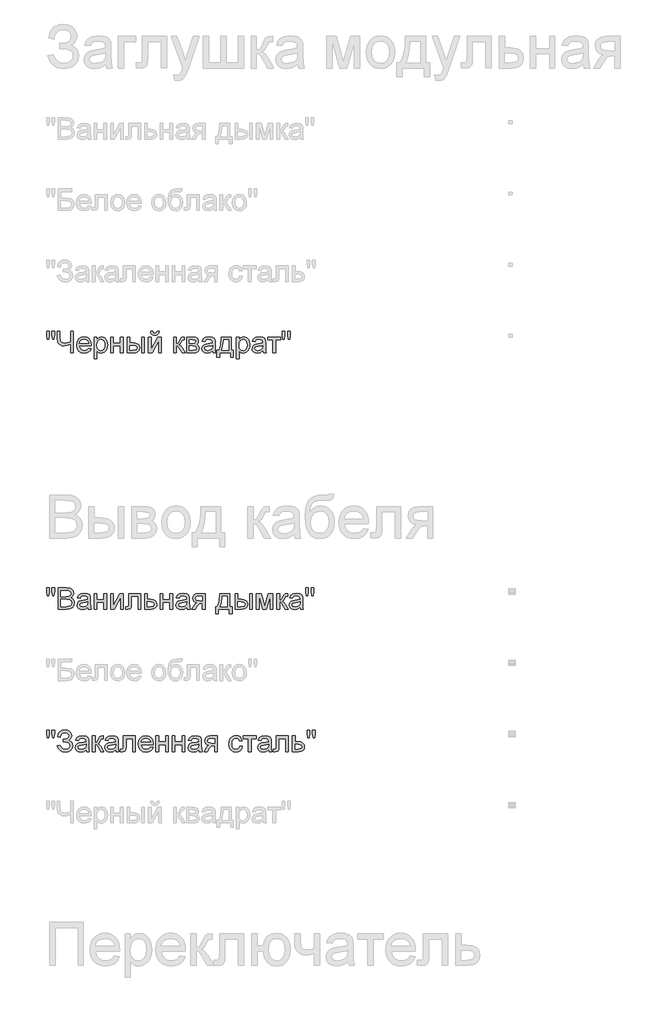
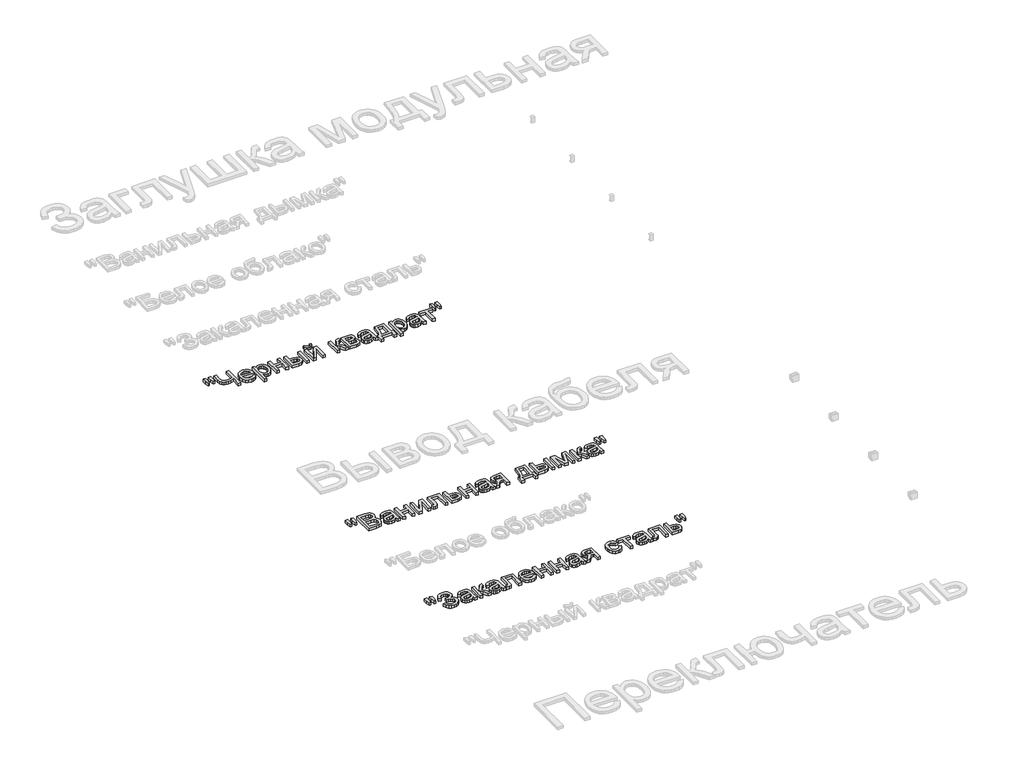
# One storey, part 64 of 168: 3 proxies.
"""IFC4 building model written with IfcOpenShell, lengths in millimetres."""

from ifc_helpers import new_model, si_unit, origin, origin_with_axes, place, context, project, spatial, polyline, outline, extrude, element, save

model = new_model("IFC4")

# Units and contexts
model_context = context("Model", 3, world=origin())
ifc_project = project(units=[si_unit("LENGTHUNIT", "METRE", prefix="MILLI")], contexts=[model_context])

# Site, building, storey
site = spatial("IfcSite", under=ifc_project)
building = spatial("IfcBuilding", under=site)
storey = spatial("IfcBuildingStorey", under=building, Name="Этаж 01", Elevation=0.0)

# Proxies
placement = place(None, origin())
element("IfcBuildingElementProxy", 1, Name="150", ObjectType="150", at=placement, inside=storey, context=model_context, shape_type="SweptSolid", body=[
    extrude(outline(polyline([(49080.1485789, -36170.3300622), (49075.550054, -36141.2305964), (49075.550054, -36116.1778325), (49094.3856121, -36116.1778325), (49094.3856121, -36141.2305964), (49090.2653338, -36170.3300622), (49080.1485789, -36170.3300622)])), origin_with_axes(), (0.0, 0.0, 1.0), 20.0),
    extrude(outline(polyline([(49117.7093306, -36170.3300622), (49113.2211703, -36141.2305964), (49113.2211703, -36116.1778325), (49132.0567284, -36116.1778325), (49132.0567284, -36141.2305964), (49127.6421445, -36170.3300622), (49117.7093306, -36170.3300622)])), origin_with_axes(), (0.0, 0.0, 1.0), 20.0),
    extrude(outline(polyline([(49263.9056355, -36266.8622977), (49245.0700773, -36266.8622977), (49245.0700773, -36206.5296505), (49220.0908899, -36214.6966308), (49198.4226404, -36217.4189576), (49183.7395502, -36215.556555), (49170.886673, -36209.9693472), (49160.926268, -36201.5172583), (49154.9205944, -36191.0602126), (49150.8922866, -36161.0594359), (49150.8922866, -36116.1778325), (49169.7278447, -36116.1778325), (49169.7278447, -36158.5210502), (49171.990319, -36178.8879171), (49178.7777418, -36190.8394834), (49188.7381468, -36196.6474204), (49200.5195677, -36198.5833994), (49222.2521966, -36196.2473488), (49245.0700773, -36189.2391968), (49245.0700773, -36116.1778325), (49263.9056355, -36116.1778325), (49263.9056355, -36266.8622977)])), origin_with_axes(), (0.0, 0.0, 1.0), 20.0),
    extrude(outline(polyline([(49371.9893657, -36233.900071), (49390.4570418, -36236.2545157), (49383.8029763, -36250.1696522), (49373.1849822, -36260.5715156), (49358.8421829, -36267.0554358), (49341.0137017, -36269.2167425), (49318.9131908, -36265.4873388), (49301.9078456, -36254.2991276), (49291.0645238, -36236.3786759), (49287.4500832, -36212.4525506), (49291.101312, -36187.7216835), (49302.0549984, -36169.2264162), (49318.8304174, -36157.6933157), (49339.9468439, -36153.8489488), (49360.4056814, -36157.6841186), (49376.7534375, -36169.189628), (49387.4725992, -36187.6481071), (49391.045653, -36212.342186), (49390.9352884, -36217.4189576), (49306.2856413, -36217.4189576), (49309.5459955, -36231.518035), (49317.1197661, -36241.8831103), (49328.0504599, -36248.2566658), (49341.3815837, -36250.3811843), (49359.8492598, -36246.444847), (49371.9893657, -36233.900071)]), holes=[polyline([(49306.2856413, -36198.5833994), (49372.2100949, -36198.5833994), (49369.6625121, -36188.6321915), (49364.668514, -36181.5136749), (49353.6872364, -36174.8917989), (49339.8732675, -36172.684507), (49327.1767401, -36174.445742), (49316.6783077, -36179.7294472), (49309.3804486, -36187.9654053), (49306.2856413, -36198.5833994)])]), origin_with_axes(), (0.0, 0.0, 1.0), 20.0),
    extrude(outline(polyline([(49409.8812112, -36309.2423036), (49409.8812112, -36156.2033936), (49428.7167693, -36156.2033936), (49428.7167693, -36174.6710697), (49441.739792, -36159.054479), (49459.3245513, -36153.8489488), (49472.0624654, -36155.6699647), (49483.2000928, -36161.1330123), (49492.268384, -36169.9069979), (49498.7982894, -36181.6608277), (49504.0590019, -36210.6867171), (49502.5736784, -36226.7953499), (49498.1177077, -36241.2025286), (49490.8336442, -36253.1770875), (49480.8640422, -36261.9878613), (49469.2527667, -36267.4095222), (49457.043683, -36269.2167425), (49440.6545401, -36264.3790943), (49428.7167693, -36252.1470179), (49428.7167693, -36309.2423036), (49409.8812112, -36309.2423036)]), holes=[polyline([(49428.7167693, -36212.4157624), (49430.7539159, -36229.301546), (49436.8653555, -36241.1105581), (49445.8830629, -36248.0635278), (49456.6390128, -36250.3811843), (49467.5697066, -36247.9807543), (49476.8173402, -36240.7794643), (49483.1219179, -36228.5381909), (49485.2234438, -36211.0178109), (49483.1725017, -36194.2239978), (49477.0196753, -36182.2494388), (49468.0157635, -36175.0757399), (49457.411565, -36172.684507), (49446.7659797, -36175.2274913), (49437.4171785, -36182.8564441), (49430.8918716, -36195.3322423), (49428.7167693, -36212.4157624)])]), origin_with_axes(), (0.0, 0.0, 1.0), 20.0),
    extrude(outline(polyline([(49525.2490049, -36156.2033936), (49544.084563, -36156.2033936), (49544.084563, -36198.5833994), (49593.5279032, -36198.5833994), (49593.5279032, -36156.2033936), (49612.3634613, -36156.2033936), (49612.3634613, -36266.8622977), (49593.5279032, -36266.8622977), (49593.5279032, -36217.4189576), (49544.084563, -36217.4189576), (49544.084563, -36266.8622977), (49525.2490049, -36266.8622977), (49525.2490049, -36156.2033936)])), origin_with_axes(), (0.0, 0.0, 1.0), 20.0),
    extrude(outline(polyline([(49744.2123684, -36156.2033936), (49763.0479266, -36156.2033936), (49763.0479266, -36266.8622977), (49744.2123684, -36266.8622977), (49744.2123684, -36156.2033936)])), origin_with_axes(), (0.0, 0.0, 1.0), 20.0),
    extrude(outline(polyline([(49640.6167986, -36156.2033936), (49659.4523567, -36156.2033936), (49659.4523567, -36196.2289547), (49682.739287, -36196.2289547), (49702.8670307, -36198.587998), (49717.780047, -36205.6651278), (49727.0092866, -36216.8901272), (49730.0856998, -36231.692779), (49727.5059273, -36245.1710556), (49719.7666098, -36256.5432078), (49706.3619096, -36264.2825252), (49686.785989, -36266.8622977), (49640.6167986, -36266.8622977), (49640.6167986, -36156.2033936)]), holes=[polyline([(49659.4523567, -36248.0267396), (49678.8029497, -36248.0267396), (49703.7821371, -36244.0720081), (49709.3831405, -36239.0090322), (49711.2501416, -36231.7295672), (49705.7135176, -36220.1412843), (49696.8337659, -36216.3337057), (49681.267759, -36215.0645128), (49659.4523567, -36215.0645128), (49659.4523567, -36248.0267396)])]), origin_with_axes(), (0.0, 0.0, 1.0), 20.0),
    extrude(outline(polyline([(49791.3012638, -36156.2033936), (49810.1368219, -36156.2033936), (49810.1368219, -36240.5955233), (49856.4163769, -36156.2033936), (49880.770165, -36156.2033936), (49880.770165, -36266.8622977), (49861.9346069, -36266.8622977), (49861.9346069, -36182.9852028), (49815.9493575, -36266.8622977), (49791.3012638, -36266.8622977), (49791.3012638, -36156.2033936)])), origin_with_axes(), (0.0, 0.0, 1.0), 20.0),
    extrude(outline(polyline([(49852.5168278, -36116.1778325), (49866.6434964, -36116.1778325), (49863.6038714, -36128.2397634), (49857.5016288, -36137.1287121), (49848.6126801, -36142.6055553), (49837.2129368, -36144.4311697), (49824.8429047, -36142.6193509), (49815.2503817, -36137.1838944), (49808.6928851, -36128.3087413), (49805.4279324, -36116.1778325), (49819.554601, -36116.1778325), (49824.8521017, -36126.7912281), (49835.5206796, -36130.3045011), (49847.219327, -36126.9015927), (49852.5168278, -36116.1778325)])), origin_with_axes(), (0.0, 0.0, 1.0), 20.0),
    extrude(outline(polyline([(49967.8846215, -36156.2033936), (49986.7201796, -36156.2033936), (49986.7201796, -36203.292289), (49999.3385321, -36199.9077746), (50009.6760161, -36180.1892997), (50018.2660607, -36163.1747574), (50025.8444298, -36157.6381334), (50039.6216105, -36156.2033936), (50043.2268541, -36156.2033936), (50043.2268541, -36175.1493163), (50038.1500825, -36175.0389517), (50028.9530327, -36177.0255145), (50022.4783096, -36189.4231377), (50014.8815464, -36202.8324365), (50004.2313626, -36209.3991301), (50016.113951, -36216.7291788), (50027.7758103, -36232.1710256), (50047.9357436, -36266.8622977), (50026.5250115, -36266.8622977), (50006.7697484, -36232.9067896), (49996.8369345, -36218.5409977), (49986.7201796, -36215.0645128), (49986.7201796, -36266.8622977), (49967.8846215, -36266.8622977), (49967.8846215, -36156.2033936)])), origin_with_axes(), (0.0, 0.0, 1.0), 20.0),
    extrude(outline(polyline([(50059.7079675, -36156.2033936), (50101.2050565, -36156.2033936), (50123.9585579, -36158.7233853), (50136.7608514, -36167.9572233), (50142.1135344, -36184.0520606), (50138.8761728, -36197.1302655), (50129.1273, -36206.4560741), (50141.7824406, -36216.6647995), (50146.8224239, -36234.4151058), (50143.6310476, -36248.7717006), (50136.0434815, -36258.8792584), (50124.0321343, -36264.8665379), (50107.569415, -36266.8622977), (50059.7079675, -36266.8622977), (50059.7079675, -36156.2033936)]), holes=[polyline([(50078.5435256, -36198.5833994), (50097.1583546, -36198.5833994), (50112.5174279, -36197.6269062), (50119.9854324, -36193.8009335), (50123.2779762, -36186.884752), (50121.8340394, -36181.2653545), (50117.5022289, -36177.6509139), (50097.7469658, -36175.0389517), (50078.5435256, -36175.0389517), (50078.5435256, -36198.5833994)]), polyline([(50078.5435256, -36248.0267396), (50101.6465149, -36248.0267396), (50122.137542, -36244.6238311), (50126.377382, -36239.9839195), (50127.9868658, -36232.8700014), (50124.7678983, -36223.8017102), (50116.3801888, -36218.5226036), (50099.8071049, -36217.4189576), (50078.5435256, -36217.4189576), (50078.5435256, -36248.0267396)])]), origin_with_axes(), (0.0, 0.0, 1.0), 20.0),
    extrude(outline(polyline([(50241.0002147, -36252.7356291), (50222.7348736, -36265.5011344), (50202.5565462, -36269.2167425), (50186.8157953, -36266.9818594), (50175.2045198, -36260.27721), (50168.0446165, -36250.0960758), (50165.6579821, -36237.4317381), (50169.2632256, -36222.5325173), (50178.736187, -36211.7167867), (50191.9247565, -36205.5363691), (50208.2219289, -36202.7036778), (50240.8898501, -36196.2289547), (50241.0002147, -36192.0350999), (50239.7034307, -36183.6289963), (50235.8130786, -36178.1291605), (50227.1126694, -36174.0456704), (50214.9909576, -36172.684507), (50195.9346703, -36176.3081446), (50186.847985, -36189.1656204), (50168.0124268, -36186.8111756), (50176.161013, -36168.4170758), (50192.56855, -36157.6381334), (50217.4189788, -36153.8489488), (50240.2460566, -36157.196675), (50253.1403205, -36165.6027786), (50258.9160679, -36178.3866779), (50259.8357728, -36194.8677913), (50259.8357728, -36218.3018744), (50260.792266, -36251.0249778), (50264.5446624, -36266.8622977), (50245.7091042, -36266.8622977), (50241.0002147, -36252.7356291)]), holes=[polyline([(50241.0002147, -36215.0645128), (50210.6131619, -36220.8402601), (50194.40796, -36223.8936807), (50187.0687142, -36228.8600876), (50184.4935402, -36236.1073629), (50190.1037407, -36246.2976942), (50206.5664599, -36250.3811843), (50225.6227473, -36245.8746299), (50237.9100059, -36234.9669288), (50240.8898501, -36220.3988017), (50241.0002147, -36215.0645128)])]), origin_with_axes(), (0.0, 0.0, 1.0), 20.0),
    extrude(outline(polyline([(50302.2157787, -36156.2033936), (50372.8491218, -36156.2033936), (50372.8491218, -36248.0267396), (50386.9757904, -36248.0267396), (50386.9757904, -36297.4700797), (50368.1402322, -36297.4700797), (50368.1402322, -36266.8622977), (50290.4435548, -36266.8622977), (50290.4435548, -36297.4700797), (50271.6079967, -36297.4700797), (50271.6079967, -36248.0267396), (50283.3802205, -36248.0267396), (50291.9380754, -36232.5619002), (50297.9299534, -36212.1030628), (50302.2157787, -36156.2033936)]), holes=[polyline([(50318.6968921, -36175.0389517), (50314.2823081, -36217.9523865), (50304.5702235, -36248.0267396), (50354.0135636, -36248.0267396), (50354.0135636, -36175.0389517), (50318.6968921, -36175.0389517)])]), origin_with_axes(), (0.0, 0.0, 1.0), 20.0),
    extrude(outline(polyline([(50408.1657933, -36309.2423036), (50408.1657933, -36156.2033936), (50427.0013514, -36156.2033936), (50427.0013514, -36174.6710697), (50440.0243741, -36159.054479), (50457.6091334, -36153.8489488), (50470.3470475, -36155.6699647), (50481.4846749, -36161.1330123), (50490.5529661, -36169.9069979), (50497.0828715, -36181.6608277), (50502.3435841, -36210.6867171), (50500.8582605, -36226.7953499), (50496.4022898, -36241.2025286), (50489.1182263, -36253.1770875), (50479.1486243, -36261.9878613), (50467.5373488, -36267.4095222), (50455.3282651, -36269.2167425), (50438.9391222, -36264.3790943), (50427.0013514, -36252.1470179), (50427.0013514, -36309.2423036), (50408.1657933, -36309.2423036)]), holes=[polyline([(50427.0013514, -36212.4157624), (50429.038498, -36229.301546), (50435.1499376, -36241.1105581), (50444.167645, -36248.0635278), (50454.9235949, -36250.3811843), (50465.8542887, -36247.9807543), (50475.1019223, -36240.7794643), (50481.4065, -36228.5381909), (50483.5080259, -36211.0178109), (50481.4570838, -36194.2239978), (50475.3042574, -36182.2494388), (50466.3003456, -36175.0757399), (50455.6961471, -36172.684507), (50445.0505618, -36175.2274913), (50435.7017606, -36182.8564441), (50429.1764537, -36195.3322423), (50427.0013514, -36212.4157624)])]), origin_with_axes(), (0.0, 0.0, 1.0), 20.0),
    extrude(outline(polyline([(50594.1669301, -36252.7356291), (50575.901589, -36265.5011344), (50555.7232616, -36269.2167425), (50539.9825107, -36266.9818594), (50528.3712352, -36260.27721), (50521.2113319, -36250.0960758), (50518.8246974, -36237.4317381), (50522.429941, -36222.5325173), (50531.9029024, -36211.7167867), (50545.0914719, -36205.5363691), (50561.3886443, -36202.7036778), (50594.0565655, -36196.2289547), (50594.1669301, -36192.0350999), (50592.870146, -36183.6289963), (50588.9797939, -36178.1291605), (50580.2793847, -36174.0456704), (50568.157673, -36172.684507), (50549.1013856, -36176.3081446), (50540.0147004, -36189.1656204), (50521.1791422, -36186.8111756), (50529.3277284, -36168.4170758), (50545.7352654, -36157.6381334), (50570.5856942, -36153.8489488), (50593.412772, -36157.196675), (50606.3070359, -36165.6027786), (50612.0827832, -36178.3866779), (50613.0024882, -36194.8677913), (50613.0024882, -36218.3018744), (50613.9589814, -36251.0249778), (50617.7113777, -36266.8622977), (50598.8758196, -36266.8622977), (50594.1669301, -36252.7356291)]), holes=[polyline([(50594.1669301, -36215.0645128), (50563.7798773, -36220.8402601), (50547.5746754, -36223.8936807), (50540.2354296, -36228.8600876), (50537.6602556, -36236.1073629), (50543.270456, -36246.2976942), (50559.7331753, -36250.3811843), (50578.7894627, -36245.8746299), (50591.0767213, -36234.9669288), (50594.0565655, -36220.3988017), (50594.1669301, -36215.0645128)])]), origin_with_axes(), (0.0, 0.0, 1.0), 20.0),
    extrude(outline(polyline([(50629.4836016, -36156.2033936), (50718.9525028, -36156.2033936), (50718.9525028, -36175.0389517), (50683.6358313, -36175.0389517), (50683.6358313, -36266.8622977), (50664.8002731, -36266.8622977), (50664.8002731, -36175.0389517), (50629.4836016, -36175.0389517), (50629.4836016, -36156.2033936)])), origin_with_axes(), (0.0, 0.0, 1.0), 20.0),
    extrude(outline(polyline([(50735.3232516, -36170.3300622), (50730.7247267, -36141.2305964), (50730.7247267, -36116.1778325), (50749.5602848, -36116.1778325), (50749.5602848, -36141.2305964), (50745.4400065, -36170.3300622), (50735.3232516, -36170.3300622)])), origin_with_axes(), (0.0, 0.0, 1.0), 20.0),
    extrude(outline(polyline([(50772.8840033, -36170.3300622), (50768.395843, -36141.2305964), (50768.395843, -36116.1778325), (50787.2314011, -36116.1778325), (50787.2314011, -36141.2305964), (50782.8168172, -36170.3300622), (50772.8840033, -36170.3300622)])), origin_with_axes(), (0.0, 0.0, 1.0), 20.0),
])
element("IfcBuildingElementProxy", 2, Name="150", ObjectType="150", at=placement, inside=storey, context=model_context, shape_type="SweptSolid", body=[
    extrude(outline(polyline([(49080.1485789, -37970.3300622), (49075.550054, -37941.2305964), (49075.550054, -37916.1778325), (49094.3856121, -37916.1778325), (49094.3856121, -37941.2305964), (49090.2653338, -37970.3300622), (49080.1485789, -37970.3300622)])), origin_with_axes(), (0.0, 0.0, 1.0), 20.0),
    extrude(outline(polyline([(49117.7093306, -37970.3300622), (49113.2211703, -37941.2305964), (49113.2211703, -37916.1778325), (49132.0567284, -37916.1778325), (49132.0567284, -37941.2305964), (49127.6421445, -37970.3300622), (49117.7093306, -37970.3300622)])), origin_with_axes(), (0.0, 0.0, 1.0), 20.0),
    extrude(outline(polyline([(49157.9556209, -38066.8622977), (49157.9556209, -37916.1778325), (49215.4555767, -37916.1778325), (49243.6169435, -37920.6108106), (49253.0807078, -37926.2348066), (49260.2452096, -37934.2408385), (49266.2600803, -37953.517855), (49261.2017028, -37971.1210085), (49245.9162059, -37984.4567308), (49256.5893823, -37990.030143), (49264.4758526, -37998.509823), (49269.3456905, -38009.3347507), (49270.9689698, -38021.9439061), (49266.5359918, -38042.19581), (49255.5547142, -38056.6167842), (49239.1655713, -38064.2687297), (49215.0141183, -38066.8622977), (49157.9556209, -38066.8622977)]), holes=[polyline([(49176.791179, -37977.3933965), (49211.1881456, -37977.3933965), (49231.2745025, -37975.7747157), (49243.3594261, -37968.8033519), (49247.4245221, -37956.5344874), (49243.6353376, -37944.2472287), (49232.7828187, -37936.9815593), (49208.5761834, -37935.0133907), (49176.791179, -37935.0133907), (49176.791179, -37977.3933965)]), polyline([(49176.791179, -38048.0267396), (49215.4187885, -38048.0267396), (49229.3983043, -38047.2909756), (49241.2257105, -38043.1890913), (49249.061597, -38034.819776), (49252.1334117, -38022.1278471), (49248.5281681, -38007.4861437), (49236.8479148, -37998.7489463), (49213.5793786, -37996.2289547), (49176.791179, -37996.2289547), (49176.791179, -38048.0267396)])]), origin_with_axes(), (0.0, 0.0, 1.0), 20.0),
    extrude(outline(polyline([(49365.1467606, -38052.7356291), (49346.8814195, -38065.5011344), (49326.7030921, -38069.2167425), (49310.9623412, -38066.9818594), (49299.3510657, -38060.27721), (49292.1911624, -38050.0960758), (49289.804528, -38037.4317381), (49293.4097715, -38022.5325173), (49302.8827329, -38011.7167867), (49316.0713024, -38005.5363691), (49332.3684748, -38002.7036778), (49365.036396, -37996.2289547), (49365.1467606, -37992.0350999), (49363.8499765, -37983.6289963), (49359.9596244, -37978.1291605), (49351.2592153, -37974.0456704), (49339.1375035, -37972.684507), (49320.0812162, -37976.3081446), (49310.9945309, -37989.1656204), (49292.1589727, -37986.8111756), (49300.3075589, -37968.4170758), (49316.7150959, -37957.6381334), (49341.5655247, -37953.8489488), (49364.3926025, -37957.196675), (49377.2868664, -37965.6027786), (49383.0626137, -37978.3866779), (49383.9823187, -37994.8677913), (49383.9823187, -38018.3018744), (49384.9388119, -38051.0249778), (49388.6912083, -38066.8622977), (49369.8556501, -38066.8622977), (49365.1467606, -38052.7356291)]), holes=[polyline([(49365.1467606, -38015.0645128), (49334.7597078, -38020.8402601), (49318.5545059, -38023.8936807), (49311.2152601, -38028.8600876), (49308.6400861, -38036.1073629), (49314.2502865, -38046.2976942), (49330.7130058, -38050.3811843), (49349.7692932, -38045.8746299), (49362.0565518, -38034.9669288), (49365.036396, -38020.3988017), (49365.1467606, -38015.0645128)])]), origin_with_axes(), (0.0, 0.0, 1.0), 20.0),
    extrude(outline(polyline([(49409.8812112, -37956.2033936), (49428.7167693, -37956.2033936), (49428.7167693, -37998.5833994), (49478.1601095, -37998.5833994), (49478.1601095, -37956.2033936), (49496.9956676, -37956.2033936), (49496.9956676, -38066.8622977), (49478.1601095, -38066.8622977), (49478.1601095, -38017.4189576), (49428.7167693, -38017.4189576), (49428.7167693, -38066.8622977), (49409.8812112, -38066.8622977), (49409.8812112, -37956.2033936)])), origin_with_axes(), (0.0, 0.0, 1.0), 20.0),
    extrude(outline(polyline([(49525.2490049, -37956.2033936), (49544.084563, -37956.2033936), (49544.084563, -38040.5955233), (49590.364118, -37956.2033936), (49614.7179061, -37956.2033936), (49614.7179061, -38066.8622977), (49595.8823479, -38066.8622977), (49595.8823479, -37982.9852028), (49549.8970985, -38066.8622977), (49525.2490049, -38066.8622977), (49525.2490049, -37956.2033936)])), origin_with_axes(), (0.0, 0.0, 1.0), 20.0),
    extrude(outline(polyline([(49652.3890224, -37956.2033936), (49737.1490341, -37956.2033936), (49737.1490341, -38066.7519331), (49718.3134759, -38066.7519331), (49718.3134759, -37975.0389517), (49671.2245806, -37975.0389517), (49671.2245806, -38027.830018), (49669.9553877, -38052.1838061), (49662.9840239, -38062.4661079), (49646.5029105, -38066.8622977), (49631.1990195, -38065.9058045), (49631.1990195, -38048.0267396), (49639.6235172, -38048.0267396), (49648.1399854, -38046.8679113), (49651.5428938, -38043.1890913), (49652.3890224, -38026.7631603), (49652.3890224, -37956.2033936)])), origin_with_axes(), (0.0, 0.0, 1.0), 20.0),
    extrude(outline(polyline([(49765.4023713, -37956.2033936), (49784.2379295, -37956.2033936), (49784.2379295, -37996.2289547), (49805.9429672, -37996.2289547), (49824.7601312, -37998.587998), (49838.6844648, -38005.6651278), (49847.2929034, -38016.8901272), (49850.162383, -38031.692779), (49847.7205663, -38045.1710556), (49840.395116, -38056.5432078), (49827.6985887, -38064.2825252), (49809.1435405, -38066.8622977), (49765.4023713, -38066.8622977), (49765.4023713, -37956.2033936)]), holes=[polyline([(49784.2379295, -38048.0267396), (49801.8226888, -38048.0267396), (49824.539402, -38044.0720081), (49829.6299692, -38039.0090322), (49831.3268249, -38031.7295672), (49826.3052356, -38020.1412843), (49818.2348244, -38016.3337057), (49804.066769, -38015.0645128), (49784.2379295, -38015.0645128), (49784.2379295, -38048.0267396)])]), origin_with_axes(), (0.0, 0.0, 1.0), 20.0),
    extrude(outline(polyline([(49873.7068307, -37956.2033936), (49892.5423889, -37956.2033936), (49892.5423889, -37998.5833994), (49941.985729, -37998.5833994), (49941.985729, -37956.2033936), (49960.8212872, -37956.2033936), (49960.8212872, -38066.8622977), (49941.985729, -38066.8622977), (49941.985729, -38017.4189576), (49892.5423889, -38017.4189576), (49892.5423889, -38066.8622977), (49873.7068307, -38066.8622977), (49873.7068307, -37956.2033936)])), origin_with_axes(), (0.0, 0.0, 1.0), 20.0),
    extrude(outline(polyline([(50059.7079675, -38052.7356291), (50041.4426264, -38065.5011344), (50021.264299, -38069.2167425), (50005.5235481, -38066.9818594), (49993.9122726, -38060.27721), (49986.7523693, -38050.0960758), (49984.3657349, -38037.4317381), (49987.9709784, -38022.5325173), (49997.4439398, -38011.7167867), (50010.6325093, -38005.5363691), (50026.9296817, -38002.7036778), (50059.5976029, -37996.2289547), (50059.7079675, -37992.0350999), (50058.4111834, -37983.6289963), (50054.5208313, -37978.1291605), (50045.8204221, -37974.0456704), (50033.6987104, -37972.684507), (50014.6424231, -37976.3081446), (50005.5557378, -37989.1656204), (49986.7201796, -37986.8111756), (49994.8687658, -37968.4170758), (50011.2763028, -37957.6381334), (50036.1267316, -37953.8489488), (50058.9538094, -37957.196675), (50071.8480733, -37965.6027786), (50077.6238206, -37978.3866779), (50078.5435256, -37994.8677913), (50078.5435256, -38018.3018744), (50079.5000188, -38051.0249778), (50083.2524152, -38066.8622977), (50064.416857, -38066.8622977), (50059.7079675, -38052.7356291)]), holes=[polyline([(50059.7079675, -38015.0645128), (50029.3209147, -38020.8402601), (50013.1157128, -38023.8936807), (50005.776467, -38028.8600876), (50003.201293, -38036.1073629), (50008.8114934, -38046.2976942), (50025.2742127, -38050.3811843), (50044.3305001, -38045.8746299), (50056.6177587, -38034.9669288), (50059.5976029, -38020.3988017), (50059.7079675, -38015.0645128)])]), origin_with_axes(), (0.0, 0.0, 1.0), 20.0),
    extrude(outline(polyline([(50189.2024298, -37956.2033936), (50189.2024298, -38066.8622977), (50170.3668716, -38066.8622977), (50170.3668716, -38024.4822919), (50160.1029639, -38024.4822919), (50146.1234481, -38026.8735249), (50132.9900609, -38042.949968), (50117.9804755, -38066.8622977), (50096.2018614, -38066.8622977), (50115.1109959, -38036.6223977), (50123.4619172, -38025.7698789), (50131.1506509, -38020.9506247), (50118.2747811, -38017.0050903), (50109.224884, -38009.5094947), (50103.872201, -37999.5398926), (50102.0879733, -37988.172339), (50104.5251915, -37975.278075), (50111.8368462, -37965.0693497), (50123.7654199, -37958.4198826), (50140.0533952, -37956.2033936), (50189.2024298, -37956.2033936)]), holes=[polyline([(50170.3668716, -37975.0389517), (50145.5348369, -37975.0389517), (50132.7095509, -37976.1288021), (50125.4300859, -37979.3983534), (50120.9235315, -37989.6070787), (50122.583599, -37996.7853762), (50127.5638015, -38001.7655787), (50151.0898551, -38005.6467337), (50170.3668716, -38005.6467337), (50170.3668716, -37975.0389517)])]), origin_with_axes(), (0.0, 0.0, 1.0), 20.0),
    extrude(outline(polyline([(50292.7979996, -37956.2033936), (50363.4313427, -37956.2033936), (50363.4313427, -38048.0267396), (50377.5580113, -38048.0267396), (50377.5580113, -38097.4700797), (50358.7224531, -38097.4700797), (50358.7224531, -38066.8622977), (50281.0257758, -38066.8622977), (50281.0257758, -38097.4700797), (50262.1902176, -38097.4700797), (50262.1902176, -38048.0267396), (50273.9624415, -38048.0267396), (50282.5202964, -38032.5619002), (50288.5121744, -38012.1030628), (50292.7979996, -37956.2033936)]), holes=[polyline([(50309.279113, -37975.0389517), (50304.864529, -38017.9523865), (50295.1524444, -38048.0267396), (50344.5957845, -38048.0267396), (50344.5957845, -37975.0389517), (50309.279113, -37975.0389517)])]), origin_with_axes(), (0.0, 0.0, 1.0), 20.0),
    extrude(outline(polyline([(50502.3435841, -37956.2033936), (50521.1791422, -37956.2033936), (50521.1791422, -38066.8622977), (50502.3435841, -38066.8622977), (50502.3435841, -37956.2033936)])), origin_with_axes(), (0.0, 0.0, 1.0), 20.0),
    extrude(outline(polyline([(50398.7480142, -37956.2033936), (50417.5835724, -37956.2033936), (50417.5835724, -37996.2289547), (50440.8705027, -37996.2289547), (50460.9982463, -37998.587998), (50475.9112627, -38005.6651278), (50485.1405023, -38016.8901272), (50488.2169154, -38031.692779), (50485.637143, -38045.1710556), (50477.8978255, -38056.5432078), (50464.4931253, -38064.2825252), (50444.9172046, -38066.8622977), (50398.7480142, -38066.8622977), (50398.7480142, -37956.2033936)]), holes=[polyline([(50417.5835724, -38048.0267396), (50436.9341653, -38048.0267396), (50461.9133528, -38044.0720081), (50467.5143562, -38039.0090322), (50469.3813573, -38031.7295672), (50463.8447333, -38020.1412843), (50454.9649816, -38016.3337057), (50439.3989747, -38015.0645128), (50417.5835724, -38015.0645128), (50417.5835724, -38048.0267396)])]), origin_with_axes(), (0.0, 0.0, 1.0), 20.0),
    extrude(outline(polyline([(50549.4324794, -37956.2033936), (50581.8428832, -37956.2033936), (50606.8220707, -38044.789378), (50633.7510327, -37956.2033936), (50664.8002731, -37956.2033936), (50664.8002731, -38066.8622977), (50645.964715, -38066.8622977), (50645.964715, -37977.7612785), (50618.8886001, -38066.8622977), (50594.1669301, -38066.8622977), (50568.2680376, -37973.4938474), (50568.2680376, -38066.8622977), (50549.4324794, -38066.8622977), (50549.4324794, -37956.2033936)])), origin_with_axes(), (0.0, 0.0, 1.0), 20.0),
    extrude(outline(polyline([(50693.0536104, -37956.2033936), (50711.8891685, -37956.2033936), (50711.8891685, -38003.292289), (50724.5075209, -37999.9077746), (50734.845005, -37980.1892997), (50743.4350496, -37963.1747574), (50751.0134187, -37957.6381334), (50764.7905994, -37956.2033936), (50768.395843, -37956.2033936), (50768.395843, -37975.1493163), (50763.3190714, -37975.0389517), (50754.1220216, -37977.0255145), (50747.6472984, -37989.4231377), (50740.0505352, -38002.8324365), (50729.4003515, -38009.3991301), (50741.2829399, -38016.7291788), (50752.9447992, -38032.1710256), (50773.1047325, -38066.8622977), (50751.6940004, -38066.8622977), (50731.9387372, -38032.9067896), (50722.0059234, -38018.5409977), (50711.8891685, -38015.0645128), (50711.8891685, -38066.8622977), (50693.0536104, -38066.8622977), (50693.0536104, -37956.2033936)])), origin_with_axes(), (0.0, 0.0, 1.0), 20.0),
    extrude(outline(polyline([(50855.5102994, -38052.7356291), (50837.2449584, -38065.5011344), (50817.0666309, -38069.2167425), (50801.3258801, -38066.9818594), (50789.7146046, -38060.27721), (50782.5547013, -38050.0960758), (50780.1680668, -38037.4317381), (50783.7733104, -38022.5325173), (50793.2462717, -38011.7167867), (50806.4348413, -38005.5363691), (50822.7320137, -38002.7036778), (50855.3999348, -37996.2289547), (50855.5102994, -37992.0350999), (50854.2135154, -37983.6289963), (50850.3231633, -37978.1291605), (50841.6227541, -37974.0456704), (50829.5010424, -37972.684507), (50810.444755, -37976.3081446), (50801.3580697, -37989.1656204), (50782.5225116, -37986.8111756), (50790.6710978, -37968.4170758), (50807.0786348, -37957.6381334), (50831.9290635, -37953.8489488), (50854.7561413, -37957.196675), (50867.6504053, -37965.6027786), (50873.4261526, -37978.3866779), (50874.3458576, -37994.8677913), (50874.3458576, -38018.3018744), (50875.3023508, -38051.0249778), (50879.0547471, -38066.8622977), (50860.219189, -38066.8622977), (50855.5102994, -38052.7356291)]), holes=[polyline([(50855.5102994, -38015.0645128), (50825.1232466, -38020.8402601), (50808.9180447, -38023.8936807), (50801.5787989, -38028.8600876), (50799.003625, -38036.1073629), (50804.6138254, -38046.2976942), (50821.0765447, -38050.3811843), (50840.132832, -38045.8746299), (50852.4200907, -38034.9669288), (50855.3999348, -38020.3988017), (50855.5102994, -38015.0645128)])]), origin_with_axes(), (0.0, 0.0, 1.0), 20.0),
    extrude(outline(polyline([(50900.1343854, -37970.3300622), (50895.5358605, -37941.2305964), (50895.5358605, -37916.1778325), (50914.3714187, -37916.1778325), (50914.3714187, -37941.2305964), (50910.2511403, -37970.3300622), (50900.1343854, -37970.3300622)])), origin_with_axes(), (0.0, 0.0, 1.0), 20.0),
    extrude(outline(polyline([(50937.6951372, -37970.3300622), (50933.2069768, -37941.2305964), (50933.2069768, -37916.1778325), (50952.042535, -37916.1778325), (50952.042535, -37941.2305964), (50947.627951, -37970.3300622), (50937.6951372, -37970.3300622)])), origin_with_axes(), (0.0, 0.0, 1.0), 20.0),
])
element("IfcBuildingElementProxy", 3, Name="150", ObjectType="150", at=placement, inside=storey, context=model_context, shape_type="SweptSolid", body=[
    extrude(outline(polyline([(49080.1485789, -38970.3300622), (49075.550054, -38941.2305964), (49075.550054, -38916.1778325), (49094.3856121, -38916.1778325), (49094.3856121, -38941.2305964), (49090.2653338, -38970.3300622), (49080.1485789, -38970.3300622)])), origin_with_axes(), (0.0, 0.0, 1.0), 20.0),
    extrude(outline(polyline([(49117.7093306, -38970.3300622), (49113.2211703, -38941.2305964), (49113.2211703, -38916.1778325), (49132.0567284, -38916.1778325), (49132.0567284, -38941.2305964), (49127.6421445, -38970.3300622), (49117.7093306, -38970.3300622)])), origin_with_axes(), (0.0, 0.0, 1.0), 20.0),
    extrude(outline(polyline([(49150.8922866, -39024.4822919), (49169.7278447, -39019.7734024), (49181.2977335, -39040.172459), (49192.2284273, -39047.829003), (49206.2217387, -39050.3811843), (49220.398991, -39048.4635995), (49231.2193202, -39042.7108448), (49238.0757209, -39034.2449603), (49240.3611878, -39024.1879863), (49237.8641888, -39013.6527657), (49230.3731916, -39005.517975), (49218.5779752, -39000.3170433), (49203.1683181, -38998.5833994), (49193.2722924, -38998.5833994), (49193.2722924, -38979.7478413), (49214.591054, -38978.221131), (49227.6324708, -38970.4220327), (49233.2978535, -38956.1666054), (49231.4124583, -38947.2960508), (49225.7562726, -38939.6670979), (49216.8811195, -38934.4109839), (49205.3388219, -38932.6589459), (49186.1169876, -38938.0484171), (49175.117316, -38952.3406326), (49172.0822895, -38965.6211727), (49153.2467313, -38960.9122831), (49159.0983543, -38940.3108914), (49169.7002536, -38925.5956116), (49185.0524291, -38916.7664437), (49205.1548809, -38913.8233877), (49224.5468605, -38916.8814068), (49239.4598769, -38926.0554641), (49248.965028, -38939.3222085), (49252.1334117, -38954.6582892), (49247.2037929, -38973.3007093), (49232.4149367, -38987.2158458), (49242.8903765, -38992.0396984), (49251.5080123, -39000.1836861), (49257.2745625, -39010.948833), (49259.196746, -39023.6361633), (49255.508729, -39041.4738415), (49244.444678, -39056.1385376), (49227.2921799, -39065.9471913), (49205.3388219, -39069.2167425), (49186.2365493, -39066.4208393), (49170.7947025, -39058.0331298), (49159.0132816, -39044.053614), (49150.8922866, -39024.4822919)])), origin_with_axes(), (0.0, 0.0, 1.0), 20.0),
    extrude(outline(polyline([(49353.3745367, -39052.7356291), (49335.1091957, -39065.5011344), (49314.9308682, -39069.2167425), (49299.1901174, -39066.9818594), (49287.5788419, -39060.27721), (49280.4189386, -39050.0960758), (49278.0323041, -39037.4317381), (49281.6375477, -39022.5325173), (49291.110509, -39011.7167867), (49304.2990786, -39005.5363691), (49320.596251, -39002.7036778), (49353.2641721, -38996.2289547), (49353.3745367, -38992.0350999), (49352.0777527, -38983.6289963), (49348.1874006, -38978.1291605), (49339.4869914, -38974.0456704), (49327.3652797, -38972.684507), (49308.3089923, -38976.3081446), (49299.222307, -38989.1656204), (49280.3867489, -38986.8111756), (49288.5353351, -38968.4170758), (49304.9428721, -38957.6381334), (49329.7933008, -38953.8489488), (49352.6203786, -38957.196675), (49365.5146426, -38965.6027786), (49371.2903899, -38978.3866779), (49372.2100949, -38994.8677913), (49372.2100949, -39018.3018744), (49373.1665881, -39051.0249778), (49376.9189844, -39066.8622977), (49358.0834263, -39066.8622977), (49353.3745367, -39052.7356291)]), holes=[polyline([(49353.3745367, -39015.0645128), (49322.9874839, -39020.8402601), (49306.782282, -39023.8936807), (49299.4430362, -39028.8600876), (49296.8678623, -39036.1073629), (49302.4780627, -39046.2976942), (49318.940782, -39050.3811843), (49337.9970693, -39045.8746299), (49350.284328, -39034.9669288), (49353.2641721, -39020.3988017), (49353.3745367, -39015.0645128)])]), origin_with_axes(), (0.0, 0.0, 1.0), 20.0),
    extrude(outline(polyline([(49398.1089873, -38956.2033936), (49416.9445455, -38956.2033936), (49416.9445455, -39003.292289), (49429.5628979, -38999.9077746), (49439.900382, -38980.1892997), (49448.4904266, -38963.1747574), (49456.0687957, -38957.6381334), (49469.8459764, -38956.2033936), (49473.4512199, -38956.2033936), (49473.4512199, -38975.1493163), (49468.3744484, -38975.0389517), (49459.1773985, -38977.0255145), (49452.7026754, -38989.4231377), (49445.1059122, -39002.8324365), (49434.4557285, -39009.3991301), (49446.3383169, -39016.7291788), (49458.0001762, -39032.1710256), (49478.1601095, -39066.8622977), (49456.7493774, -39066.8622977), (49436.9941142, -39032.9067896), (49427.0613004, -39018.5409977), (49416.9445455, -39015.0645128), (49416.9445455, -39066.8622977), (49398.1089873, -39066.8622977), (49398.1089873, -38956.2033936)])), origin_with_axes(), (0.0, 0.0, 1.0), 20.0),
    extrude(outline(polyline([(49560.5656764, -39052.7356291), (49542.3003353, -39065.5011344), (49522.1220079, -39069.2167425), (49506.381257, -39066.9818594), (49494.7699816, -39060.27721), (49487.6100782, -39050.0960758), (49485.2234438, -39037.4317381), (49488.8286873, -39022.5325173), (49498.3016487, -39011.7167867), (49511.4902183, -39005.5363691), (49527.7873906, -39002.7036778), (49560.4553118, -38996.2289547), (49560.5656764, -38992.0350999), (49559.2688924, -38983.6289963), (49555.3785403, -38978.1291605), (49546.6781311, -38974.0456704), (49534.5564193, -38972.684507), (49515.500132, -38976.3081446), (49506.4134467, -38989.1656204), (49487.5778886, -38986.8111756), (49495.7264748, -38968.4170758), (49512.1340117, -38957.6381334), (49536.9844405, -38953.8489488), (49559.8115183, -38957.196675), (49572.7057822, -38965.6027786), (49578.4815296, -38978.3866779), (49579.4012346, -38994.8677913), (49579.4012346, -39018.3018744), (49580.3577277, -39051.0249778), (49584.1101241, -39066.8622977), (49565.2745659, -39066.8622977), (49560.5656764, -39052.7356291)]), holes=[polyline([(49560.5656764, -39015.0645128), (49530.1786236, -39020.8402601), (49513.9734217, -39023.8936807), (49506.6341759, -39028.8600876), (49504.0590019, -39036.1073629), (49509.6692024, -39046.2976942), (49526.1319217, -39050.3811843), (49545.188209, -39045.8746299), (49557.4754676, -39034.9669288), (49560.4553118, -39020.3988017), (49560.5656764, -39015.0645128)])]), origin_with_axes(), (0.0, 0.0, 1.0), 20.0),
    extrude(outline(polyline([(49614.7179061, -38956.2033936), (49699.4779178, -38956.2033936), (49699.4779178, -39066.7519331), (49680.6423596, -39066.7519331), (49680.6423596, -38975.0389517), (49633.5534643, -38975.0389517), (49633.5534643, -39027.830018), (49632.2842714, -39052.1838061), (49625.3129076, -39062.4661079), (49608.8317942, -39066.8622977), (49593.5279032, -39065.9058045), (49593.5279032, -39048.0267396), (49601.9524009, -39048.0267396), (49610.4688691, -39046.8679113), (49613.8717775, -39043.1890913), (49614.7179061, -39026.7631603), (49614.7179061, -38956.2033936)])), origin_with_axes(), (0.0, 0.0, 1.0), 20.0),
    extrude(outline(polyline([(49805.2072032, -39033.900071), (49823.6748794, -39036.2545157), (49817.0208138, -39050.1696522), (49806.4028197, -39060.5715156), (49792.0600204, -39067.0554358), (49774.2315392, -39069.2167425), (49752.1310283, -39065.4873388), (49735.1256831, -39054.2991276), (49724.2823613, -39036.3786759), (49720.6679207, -39012.4525506), (49724.3191495, -38987.7216835), (49735.2728359, -38969.2264162), (49752.0482549, -38957.6933157), (49773.1646814, -38953.8489488), (49793.6235189, -38957.6841186), (49809.971275, -38969.189628), (49820.6904367, -38987.6481071), (49824.2634906, -39012.342186), (49824.153126, -39017.4189576), (49739.5034789, -39017.4189576), (49742.763833, -39031.518035), (49750.3376036, -39041.8831103), (49761.2682974, -39048.2566658), (49774.5994212, -39050.3811843), (49793.0670974, -39046.444847), (49805.2072032, -39033.900071)]), holes=[polyline([(49739.5034789, -38998.5833994), (49805.4279324, -38998.5833994), (49802.8803496, -38988.6321915), (49797.8863515, -38981.5136749), (49786.9050739, -38974.8917989), (49773.091105, -38972.684507), (49760.3945777, -38974.445742), (49749.8961452, -38979.7294472), (49742.5982861, -38987.9654053), (49739.5034789, -38998.5833994)])]), origin_with_axes(), (0.0, 0.0, 1.0), 20.0),
    extrude(outline(polyline([(49843.0990487, -38956.2033936), (49861.9346069, -38956.2033936), (49861.9346069, -38998.5833994), (49911.377947, -38998.5833994), (49911.377947, -38956.2033936), (49930.2135052, -38956.2033936), (49930.2135052, -39066.8622977), (49911.377947, -39066.8622977), (49911.377947, -39017.4189576), (49861.9346069, -39017.4189576), (49861.9346069, -39066.8622977), (49843.0990487, -39066.8622977), (49843.0990487, -38956.2033936)])), origin_with_axes(), (0.0, 0.0, 1.0), 20.0),
    extrude(outline(polyline([(49958.4668424, -38956.2033936), (49977.3024005, -38956.2033936), (49977.3024005, -38998.5833994), (50026.7457407, -38998.5833994), (50026.7457407, -38956.2033936), (50045.5812988, -38956.2033936), (50045.5812988, -39066.8622977), (50026.7457407, -39066.8622977), (50026.7457407, -39017.4189576), (49977.3024005, -39017.4189576), (49977.3024005, -39066.8622977), (49958.4668424, -39066.8622977), (49958.4668424, -38956.2033936)])), origin_with_axes(), (0.0, 0.0, 1.0), 20.0),
    extrude(outline(polyline([(50144.4679792, -39052.7356291), (50126.2026381, -39065.5011344), (50106.0243107, -39069.2167425), (50090.2835598, -39066.9818594), (50078.6722843, -39060.27721), (50071.512381, -39050.0960758), (50069.1257465, -39037.4317381), (50072.7309901, -39022.5325173), (50082.2039515, -39011.7167867), (50095.392521, -39005.5363691), (50111.6896934, -39002.7036778), (50144.3576146, -38996.2289547), (50144.4679792, -38992.0350999), (50143.1711951, -38983.6289963), (50139.280843, -38978.1291605), (50130.5804338, -38974.0456704), (50118.4587221, -38972.684507), (50099.4024347, -38976.3081446), (50090.3157495, -38989.1656204), (50071.4801913, -38986.8111756), (50079.6287775, -38968.4170758), (50096.0363145, -38957.6381334), (50120.8867433, -38953.8489488), (50143.7138211, -38957.196675), (50156.608085, -38965.6027786), (50162.3838323, -38978.3866779), (50163.3035373, -38994.8677913), (50163.3035373, -39018.3018744), (50164.2600305, -39051.0249778), (50168.0124268, -39066.8622977), (50149.1768687, -39066.8622977), (50144.4679792, -39052.7356291)]), holes=[polyline([(50144.4679792, -39015.0645128), (50114.0809264, -39020.8402601), (50097.8757245, -39023.8936807), (50090.5364787, -39028.8600876), (50087.9613047, -39036.1073629), (50093.5715051, -39046.2976942), (50110.0342244, -39050.3811843), (50129.0905118, -39045.8746299), (50141.3777704, -39034.9669288), (50144.3576146, -39020.3988017), (50144.4679792, -39015.0645128)])]), origin_with_axes(), (0.0, 0.0, 1.0), 20.0),
    extrude(outline(polyline([(50273.9624415, -38956.2033936), (50273.9624415, -39066.8622977), (50255.1268833, -39066.8622977), (50255.1268833, -39024.4822919), (50244.8629756, -39024.4822919), (50230.8834598, -39026.8735249), (50217.7500726, -39042.949968), (50202.7404872, -39066.8622977), (50180.9618731, -39066.8622977), (50199.8710076, -39036.6223977), (50208.2219289, -39025.7698789), (50215.9106626, -39020.9506247), (50203.0347928, -39017.0050903), (50193.9848957, -39009.5094947), (50188.6322127, -38999.5398926), (50186.847985, -38988.172339), (50189.2852032, -38975.278075), (50196.5968579, -38965.0693497), (50208.5254316, -38958.4198826), (50224.8134069, -38956.2033936), (50273.9624415, -38956.2033936)]), holes=[polyline([(50255.1268833, -38975.0389517), (50230.2948486, -38975.0389517), (50217.4695626, -38976.1288021), (50210.1900976, -38979.3983534), (50205.6835431, -38989.6070787), (50207.3436107, -38996.7853762), (50212.3238132, -39001.7655787), (50235.8498668, -39005.6467337), (50255.1268833, -39005.6467337), (50255.1268833, -38975.0389517)])]), origin_with_axes(), (0.0, 0.0, 1.0), 20.0),
    extrude(outline(polyline([(50431.710241, -39026.8367367), (50450.5457991, -39029.1911814), (50445.2942837, -39045.9436078), (50435.4258491, -39058.6033469), (50421.8693976, -39066.5633936), (50405.5538311, -39069.2167425), (50385.518058, -39065.5149299), (50369.8508835, -39054.4094922), (50359.7387272, -39036.387873), (50356.3680084, -39011.9375159), (50357.8073467, -38995.1758924), (50362.1253616, -38980.6491522), (50369.391031, -38968.918315), (50379.6733328, -38960.5444011), (50391.974387, -38955.5228119), (50405.2963137, -38953.8489488), (50421.2118085, -38956.1482113), (50433.9359271, -38963.0459987), (50443.0639991, -38974.174429), (50448.1913544, -38989.1656204), (50429.3557962, -38991.5200651), (50420.6185988, -38977.4117906), (50405.4434665, -38972.684507), (50393.271171, -38975.0113606), (50383.6096701, -38981.9919214), (50377.3050924, -38994.0032686), (50375.2035665, -39011.4224811), (50377.2591072, -39029.0762183), (50383.4257291, -39041.1289522), (50392.9124861, -39048.0681263), (50404.9284317, -39050.3811843), (50414.6819031, -39048.9372475), (50422.678738, -39044.605437), (50428.4958721, -39037.2753883), (50431.710241, -39026.8367367)])), origin_with_axes(), (0.0, 0.0, 1.0), 20.0),
    extrude(outline(polyline([(50457.6091334, -38956.2033936), (50547.0780347, -38956.2033936), (50547.0780347, -38975.0389517), (50511.7613631, -38975.0389517), (50511.7613631, -39066.8622977), (50492.925805, -39066.8622977), (50492.925805, -38975.0389517), (50457.6091334, -38975.0389517), (50457.6091334, -38956.2033936)])), origin_with_axes(), (0.0, 0.0, 1.0), 20.0),
    extrude(outline(polyline([(50634.1924911, -39052.7356291), (50615.9271501, -39065.5011344), (50595.7488226, -39069.2167425), (50580.0080718, -39066.9818594), (50568.3967963, -39060.27721), (50561.236893, -39050.0960758), (50558.8502585, -39037.4317381), (50562.4555021, -39022.5325173), (50571.9284634, -39011.7167867), (50585.117033, -39005.5363691), (50601.4142054, -39002.7036778), (50634.0821265, -38996.2289547), (50634.1924911, -38992.0350999), (50632.8957071, -38983.6289963), (50629.005355, -38978.1291605), (50620.3049458, -38974.0456704), (50608.1832341, -38972.684507), (50589.1269467, -38976.3081446), (50580.0402614, -38989.1656204), (50561.2047033, -38986.8111756), (50569.3532895, -38968.4170758), (50585.7608265, -38957.6381334), (50610.6112552, -38953.8489488), (50633.438333, -38957.196675), (50646.332597, -38965.6027786), (50652.1083443, -38978.3866779), (50653.0280493, -38994.8677913), (50653.0280493, -39018.3018744), (50653.9845425, -39051.0249778), (50657.7369388, -39066.8622977), (50638.9013807, -39066.8622977), (50634.1924911, -39052.7356291)]), holes=[polyline([(50634.1924911, -39015.0645128), (50603.8054383, -39020.8402601), (50587.6002364, -39023.8936807), (50580.2609906, -39028.8600876), (50577.6858167, -39036.1073629), (50583.2960171, -39046.2976942), (50599.7587364, -39050.3811843), (50618.8150237, -39045.8746299), (50631.1022824, -39034.9669288), (50634.0821265, -39020.3988017), (50634.1924911, -39015.0645128)])]), origin_with_axes(), (0.0, 0.0, 1.0), 20.0),
    extrude(outline(polyline([(50688.3447208, -38956.2033936), (50773.1047325, -38956.2033936), (50773.1047325, -39066.7519331), (50754.2691744, -39066.7519331), (50754.2691744, -38975.0389517), (50707.180279, -38975.0389517), (50707.180279, -39027.830018), (50705.9110861, -39052.1838061), (50698.9397223, -39062.4661079), (50682.4586089, -39066.8622977), (50667.1547179, -39065.9058045), (50667.1547179, -39048.0267396), (50675.5792156, -39048.0267396), (50684.0956838, -39046.8679113), (50687.4985922, -39043.1890913), (50688.3447208, -39026.7631603), (50688.3447208, -38956.2033936)])), origin_with_axes(), (0.0, 0.0, 1.0), 20.0),
    extrude(outline(polyline([(50801.3580697, -38956.2033936), (50820.1936279, -38956.2033936), (50820.1936279, -38996.2289547), (50841.8986656, -38996.2289547), (50860.7158297, -38998.587998), (50874.6401632, -39005.6651278), (50883.2486019, -39016.8901272), (50886.1180814, -39031.692779), (50883.6762647, -39045.1710556), (50876.3508145, -39056.5432078), (50863.6542871, -39064.2825252), (50845.099239, -39066.8622977), (50801.3580697, -39066.8622977), (50801.3580697, -38956.2033936)]), holes=[polyline([(50820.1936279, -39048.0267396), (50837.7783873, -39048.0267396), (50860.4951005, -39044.0720081), (50865.5856676, -39039.0090322), (50867.2825233, -39031.7295672), (50862.260934, -39020.1412843), (50854.1905228, -39016.3337057), (50840.0224674, -39015.0645128), (50820.1936279, -39015.0645128), (50820.1936279, -39048.0267396)])]), origin_with_axes(), (0.0, 0.0, 1.0), 20.0),
    extrude(outline(polyline([(50909.5521645, -38970.3300622), (50904.9536396, -38941.2305964), (50904.9536396, -38916.1778325), (50923.7891977, -38916.1778325), (50923.7891977, -38941.2305964), (50919.6689194, -38970.3300622), (50909.5521645, -38970.3300622)])), origin_with_axes(), (0.0, 0.0, 1.0), 20.0),
    extrude(outline(polyline([(50947.1129162, -38970.3300622), (50942.6247559, -38941.2305964), (50942.6247559, -38916.1778325), (50961.460314, -38916.1778325), (50961.460314, -38941.2305964), (50957.0457301, -38970.3300622), (50947.1129162, -38970.3300622)])), origin_with_axes(), (0.0, 0.0, 1.0), 20.0),
])

save(model, "model.ifc")
